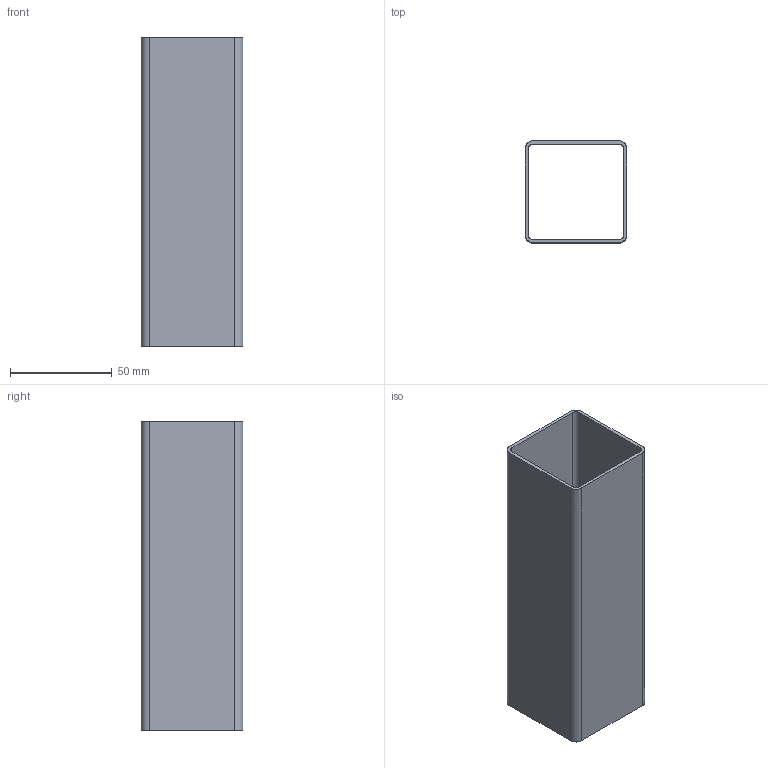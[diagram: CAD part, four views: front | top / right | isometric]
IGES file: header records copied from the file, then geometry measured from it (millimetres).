
Start section: SolidWorks IGES file using analytic representation for surfaces
Global section: file name: C:\Working\Gusset Convert\DRP-002-0000-02.IGS; native system: SolidWorks 2010; preprocessor: SolidWorks 2010; author: mbush2; date: 100624.123150; units: inch
Bounding box: 50.15 x 50.15 x 152.4 mm (x, y, z)
Surface area: 58145.4 mm2 (no closed solid volume)
Topology: 0 solids, 0 shells, 18 faces, 208 edges, 208 vertices
Faces by surface type: bspline 10, revolution 8
